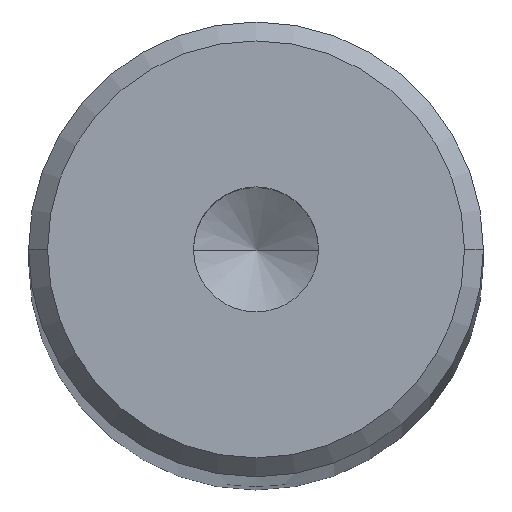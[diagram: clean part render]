
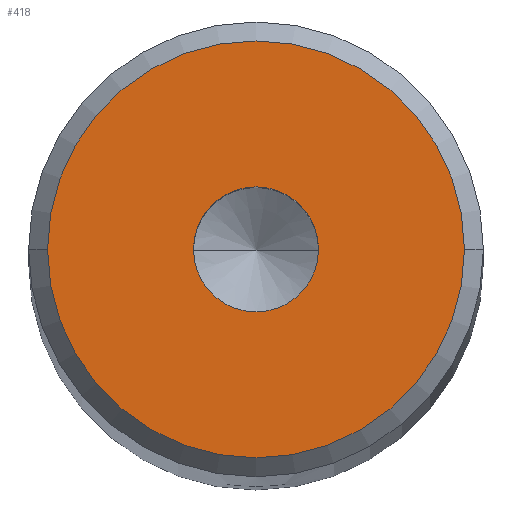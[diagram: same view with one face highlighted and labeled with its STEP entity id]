
A CAD part, top view. The second image highlights one B-rep face of the part: STEP entity #418.
In plain terms, the highlighted planar face has unit normal (0, 0, 1).
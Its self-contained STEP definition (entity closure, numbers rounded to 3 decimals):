
#6 = EDGE_LOOP ( 'NONE', ( #200, #318 ) ) ;
#10 = AXIS2_PLACEMENT_3D ( 'NONE', #576, #211, #518 ) ;
#41 = EDGE_CURVE ( 'NONE', #79, #565, #133, .T. ) ;
#56 = CARTESIAN_POINT ( 'NONE',  ( -1.65, 0., 200. ) ) ;
#77 = VERTEX_POINT ( 'NONE', #222 ) ;
#79 = VERTEX_POINT ( 'NONE', #598 ) ;
#89 = DIRECTION ( 'NONE',  ( 1., 0., 0. ) ) ;
#109 = CARTESIAN_POINT ( 'NONE',  ( 0., 0., 200. ) ) ;
#120 = FACE_BOUND ( 'NONE', #6, .T. ) ;
#133 = CIRCLE ( 'NONE', #268, 5.5 ) ;
#192 = CARTESIAN_POINT ( 'NONE',  ( 5.5, 0., 200. ) ) ;
#200 = ORIENTED_EDGE ( 'NONE', *, *, #349, .F. ) ;
#211 = DIRECTION ( 'NONE',  ( 0., 0., 1. ) ) ;
#213 = AXIS2_PLACEMENT_3D ( 'NONE', #109, #569, #350 ) ;
#216 = CARTESIAN_POINT ( 'NONE',  ( 0., 0., 200. ) ) ;
#222 = CARTESIAN_POINT ( 'NONE',  ( 1.65, 0., 200. ) ) ;
#224 = ORIENTED_EDGE ( 'NONE', *, *, #371, .T. ) ;
#266 = DIRECTION ( 'NONE',  ( 0., 0., 1. ) ) ;
#268 = AXIS2_PLACEMENT_3D ( 'NONE', #496, #275, #89 ) ;
#275 = DIRECTION ( 'NONE',  ( 0., 0., 1. ) ) ;
#276 = CIRCLE ( 'NONE', #425, 1.65 ) ;
#311 = CIRCLE ( 'NONE', #367, 1.65 ) ;
#318 = ORIENTED_EDGE ( 'NONE', *, *, #352, .F. ) ;
#327 = CIRCLE ( 'NONE', #10, 5.5 ) ;
#349 = EDGE_CURVE ( 'NONE', #77, #432, #276, .T. ) ;
#350 = DIRECTION ( 'NONE',  ( 1., 0., 0. ) ) ;
#352 = EDGE_CURVE ( 'NONE', #432, #77, #311, .T. ) ;
#367 = AXIS2_PLACEMENT_3D ( 'NONE', #216, #400, #536 ) ;
#371 = EDGE_CURVE ( 'NONE', #565, #79, #327, .T. ) ;
#386 = PLANE ( 'NONE',  #213 ) ;
#388 = ORIENTED_EDGE ( 'NONE', *, *, #41, .T. ) ;
#399 = CARTESIAN_POINT ( 'NONE',  ( 0., 0., 200. ) ) ;
#400 = DIRECTION ( 'NONE',  ( 0., 0., 1. ) ) ;
#418 = ADVANCED_FACE ( 'NONE', ( #120, #440 ), #386, .T. ) ;
#425 = AXIS2_PLACEMENT_3D ( 'NONE', #399, #266, #446 ) ;
#432 = VERTEX_POINT ( 'NONE', #56 ) ;
#440 = FACE_OUTER_BOUND ( 'NONE', #478, .T. ) ;
#446 = DIRECTION ( 'NONE',  ( 1., 0., 0. ) ) ;
#478 = EDGE_LOOP ( 'NONE', ( #388, #224 ) ) ;
#496 = CARTESIAN_POINT ( 'NONE',  ( 0., 0., 200. ) ) ;
#518 = DIRECTION ( 'NONE',  ( 1., 0., 0. ) ) ;
#536 = DIRECTION ( 'NONE',  ( 1., 0., 0. ) ) ;
#565 = VERTEX_POINT ( 'NONE', #192 ) ;
#569 = DIRECTION ( 'NONE',  ( 0., 0., 1. ) ) ;
#576 = CARTESIAN_POINT ( 'NONE',  ( 0., 0., 200. ) ) ;
#598 = CARTESIAN_POINT ( 'NONE',  ( -5.5, 0., 200. ) ) ;
